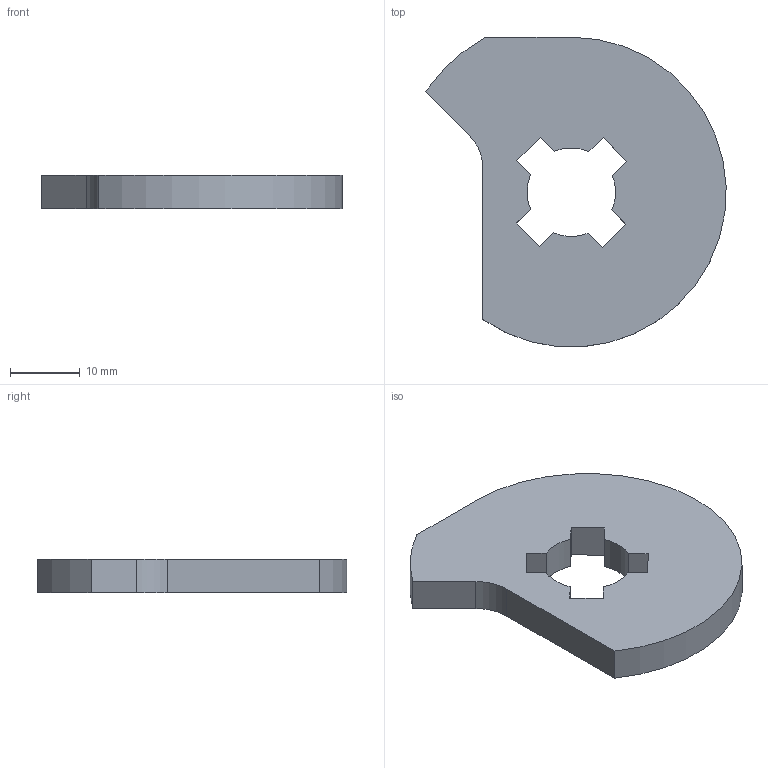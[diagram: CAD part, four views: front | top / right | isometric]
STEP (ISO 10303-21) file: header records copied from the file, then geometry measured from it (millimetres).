
FILE_DESCRIPTION(/* description */ (''),/* implementation_level */ '2;1');
FILE_NAME(/* name */ 'F:\Google Drive\Research\3d Printer Research\Feedstock Grinder\Ginder Parts\blade.step',/* time_stamp */ '2016-08-18T22:22:06-07:00',/* author */ ('Brenton'),/* organization */ (''),/* preprocessor_version */ 'ST-DEVELOPER v15.6',/* originating_system */ 'Autodesk Inventor 2015',/* authorisation */ '');
FILE_SCHEMA (('AUTOMOTIVE_DESIGN { 1 0 10303 214 3 1 1 }'));
Length unit declared in the file: inch
Products named in the file (1): blade 1
Bounding box: 43.07 x 44.39 x 4.76 mm (x, y, z)
Volume: 5806.4 mm3; surface area: 3415.9 mm2
Topology: 1 solids, 1 shells, 24 faces, 66 edges, 44 vertices
Faces by surface type: plane 17, cylinder 7
Entity records: 794 total; most frequent: CARTESIAN_POINT 135, ORIENTED_EDGE 132, DIRECTION 130, EDGE_CURVE 66, LINE 52, VECTOR 52, VERTEX_POINT 44, AXIS2_PLACEMENT_3D 39
